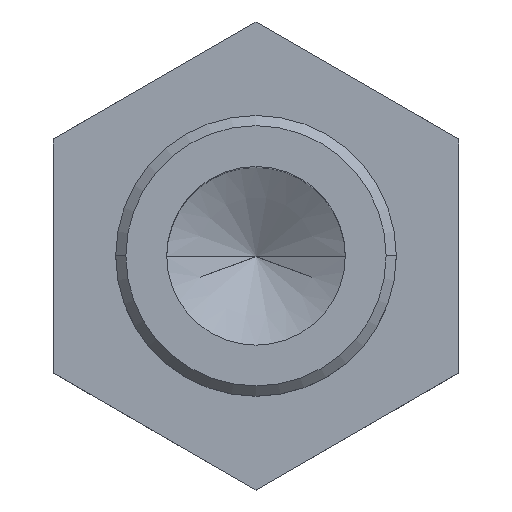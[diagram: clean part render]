
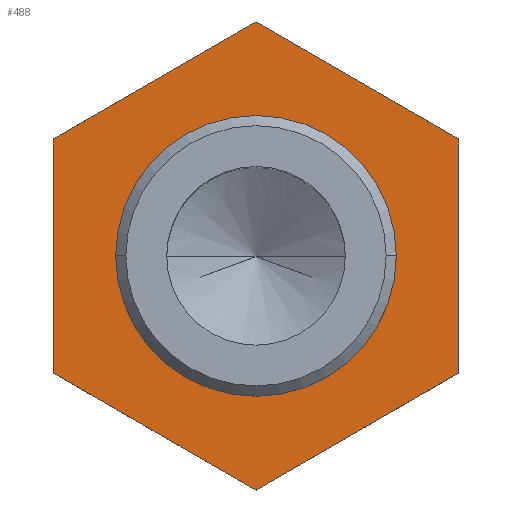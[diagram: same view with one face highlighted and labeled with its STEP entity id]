
A CAD part, top view. The second image highlights one B-rep face of the part: STEP entity #488.
In plain terms, the highlighted planar face has unit normal (0, 0, 1).
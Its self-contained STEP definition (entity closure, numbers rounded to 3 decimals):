
#73=CARTESIAN_POINT('',(0.,0.,12.72));
#74=DIRECTION('',(0.,0.,1.));
#75=DIRECTION('',(1.,0.,0.));
#76=AXIS2_PLACEMENT_3D('',#73,#74,#75);
#78=CARTESIAN_POINT('',(0.,0.,12.72));
#79=DIRECTION('',(0.,0.,-1.));
#80=DIRECTION('',(1.,0.,0.));
#81=AXIS2_PLACEMENT_3D('',#78,#79,#80);
#83=DIRECTION('',(0.866,-0.5,0.));
#84=VECTOR('',#83,4.585);
#85=CARTESIAN_POINT('',(0.,4.585,12.72));
#86=LINE('',#85,#84);
#87=DIRECTION('',(0.,-1.,0.));
#88=VECTOR('',#87,4.585);
#89=CARTESIAN_POINT('',(3.971,2.293,12.72));
#90=LINE('',#89,#88);
#91=DIRECTION('',(-0.866,-0.5,0.));
#92=VECTOR('',#91,4.585);
#93=CARTESIAN_POINT('',(3.971,-2.293,12.72));
#94=LINE('',#93,#92);
#95=DIRECTION('',(-0.866,0.5,0.));
#96=VECTOR('',#95,4.585);
#97=CARTESIAN_POINT('',(0.,-4.585,12.72));
#98=LINE('',#97,#96);
#99=DIRECTION('',(0.,1.,0.));
#100=VECTOR('',#99,4.585);
#101=CARTESIAN_POINT('',(-3.971,-2.293,12.72));
#102=LINE('',#101,#100);
#103=DIRECTION('',(0.866,0.5,0.));
#104=VECTOR('',#103,4.585);
#105=CARTESIAN_POINT('',(-3.971,2.293,12.72));
#106=LINE('',#105,#104);
#297=CARTESIAN_POINT('',(2.75,0.,12.72));
#298=CARTESIAN_POINT('',(-2.75,0.,12.72));
#299=VERTEX_POINT('',#297);
#300=VERTEX_POINT('',#298);
#301=CARTESIAN_POINT('',(0.,4.585,12.72));
#302=CARTESIAN_POINT('',(3.971,2.293,12.72));
#303=VERTEX_POINT('',#301);
#304=VERTEX_POINT('',#302);
#305=CARTESIAN_POINT('',(3.971,-2.293,12.72));
#306=VERTEX_POINT('',#305);
#307=CARTESIAN_POINT('',(0.,-4.585,12.72));
#308=VERTEX_POINT('',#307);
#309=CARTESIAN_POINT('',(-3.971,-2.293,12.72));
#310=VERTEX_POINT('',#309);
#311=CARTESIAN_POINT('',(-3.971,2.293,12.72));
#312=VERTEX_POINT('',#311);
#465=CARTESIAN_POINT('',(0.,0.,12.72));
#466=DIRECTION('',(0.,0.,-1.));
#467=DIRECTION('',(1.,0.,0.));
#468=AXIS2_PLACEMENT_3D('',#465,#466,#467);
#469=PLANE('',#468);
#471=ORIENTED_EDGE('',*,*,#470,.T.);
#473=ORIENTED_EDGE('',*,*,#472,.T.);
#475=ORIENTED_EDGE('',*,*,#474,.T.);
#477=ORIENTED_EDGE('',*,*,#476,.T.);
#479=ORIENTED_EDGE('',*,*,#478,.T.);
#481=ORIENTED_EDGE('',*,*,#480,.T.);
#482=EDGE_LOOP('',(#471,#473,#475,#477,#479,#481));
#483=FACE_OUTER_BOUND('',#482,.F.);
#484=ORIENTED_EDGE('',*,*,#447,.T.);
#485=ORIENTED_EDGE('',*,*,#432,.F.);
#486=EDGE_LOOP('',(#484,#485));
#487=FACE_BOUND('',#486,.F.);
#488=ADVANCED_FACE('',(#483,#487),#469,.F.);
#77=CIRCLE('',#76,2.75);
#82=CIRCLE('',#81,2.75);
#432=EDGE_CURVE('',#299,#300,#82,.T.);
#447=EDGE_CURVE('',#299,#300,#77,.T.);
#470=EDGE_CURVE('',#303,#304,#86,.T.);
#472=EDGE_CURVE('',#304,#306,#90,.T.);
#474=EDGE_CURVE('',#306,#308,#94,.T.);
#476=EDGE_CURVE('',#308,#310,#98,.T.);
#478=EDGE_CURVE('',#310,#312,#102,.T.);
#480=EDGE_CURVE('',#312,#303,#106,.T.);
